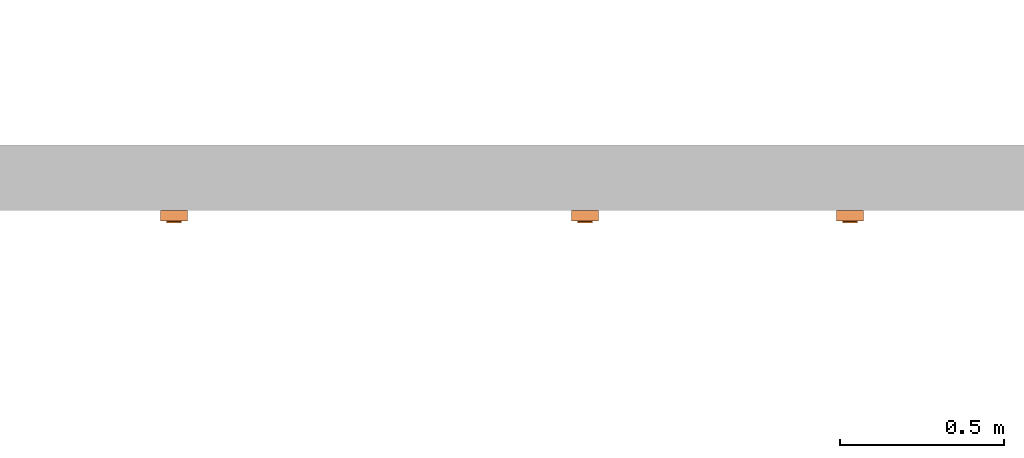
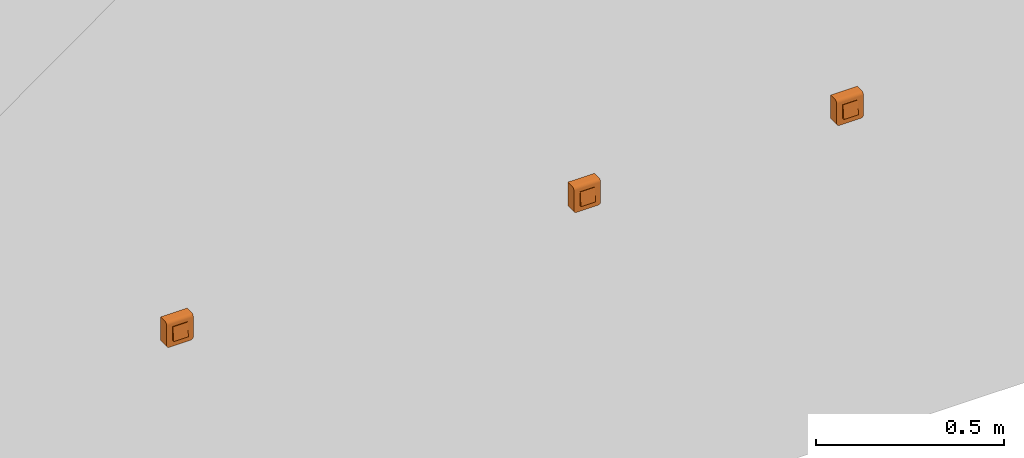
# One storey, part 127 of 197: 3 proxies.
"""IFC2X3 building model written with IfcOpenShell, lengths in metres."""

from ifc_helpers import new_model, entity, si_unit, converted_unit, direction, frame, origin, place, context, subcontext, project, spatial, faceted_brep, source, transform, mapped, material, material_list, type_object, type_shapes, element, save


model = new_model("IFC2X3")

# Units and contexts
model_context = context("Model", 3, precision=1e-05, world=origin(), true_north=direction((6.123031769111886e-17, 1.0)))
body_context = subcontext(model_context, "Body", "Model", "MODEL_VIEW")
ifc_project = project(units=[si_unit("LENGTHUNIT", "METRE"), converted_unit("PLANEANGLEUNIT", "DEGREE", entity("IfcPlaneAngleMeasure", 0.017453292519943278), si_unit("PLANEANGLEUNIT", "RADIAN"), dimensions=[0, 0, 0, 0, 0, 0, 0]), si_unit("AREAUNIT", "SQUARE_METRE")], contexts=[model_context])

# Site, building, storey
site_placement = place(None, origin())
site = spatial("IfcSite", under=ifc_project, at=site_placement, Name="Default", CompositionType="ELEMENT")
building_placement = place(site_placement, origin())
building = spatial("IfcBuilding", under=site, at=building_placement, CompositionType="ELEMENT")
storey_placement = place(building_placement, origin())
storey = spatial("IfcBuildingStorey", under=building, at=storey_placement, Name="Niveau 0", CompositionType="ELEMENT", Elevation=0.0)

# Proxies
ifc_material_1 = material(Name="BETCE-CADRE-BLANC")
ifc_material_2 = material(Name="BETCE-DOIGT-BLANC")
ifc_material_3 = material(Name="BETCE-ENJOLIVEUR-BLANC")
ifc_material_list = material_list([ifc_material_1, ifc_material_2, ifc_material_3])
building_element_proxy_type_1 = type_object("IfcBuildingElementProxyType", Name="Interrupteur simple saillie:Bouton poussoir", PredefinedType="NOTDEFINED", material=ifc_material_list)
shared_shape_1 = source(origin(), body_context, "Body", "Brep", [
    faceted_brep([(0.040999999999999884, -0.023, -0.03299999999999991), (0.040999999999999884, -0.023, 0.04092306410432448), (-0.04100000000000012, -0.023000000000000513, 0.04092306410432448), (-0.04100000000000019, -0.023000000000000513, -0.03299999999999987), (-0.040727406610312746, -0.023000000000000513, -0.03507055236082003), (-0.039928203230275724, -0.023000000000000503, -0.03699999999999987), (-0.038656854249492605, -0.0230000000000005, -0.038656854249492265), (-0.037000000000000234, -0.023000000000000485, -0.03992820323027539), (-0.0350705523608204, -0.023000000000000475, -0.04072740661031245), (-0.03300000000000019, -0.02300000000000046, -0.040999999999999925), (0.032999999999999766, -0.02300000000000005, -0.040999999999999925), (0.03507055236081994, -0.023000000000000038, -0.04072740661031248), (0.036999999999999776, -0.023000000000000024, -0.03992820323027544), (0.03865685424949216, -0.023000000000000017, -0.038656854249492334), (0.0399282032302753, -0.023000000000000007, -0.03699999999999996), (0.04072740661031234, -0.023000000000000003, -0.035070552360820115), (-0.041000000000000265, 0.0, -0.03299999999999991), (-0.041000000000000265, 0.0, 0.04092306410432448), (0.04099999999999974, 0.0, 0.04092306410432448), (0.040999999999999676, 0.0, -0.03299999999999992), (0.04072740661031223, 0.0, -0.03507055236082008), (0.03992820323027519, 0.0, -0.03699999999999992), (0.03865685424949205, 0.0, -0.0386568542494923), (0.036999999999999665, 0.0, -0.039928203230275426), (0.03507055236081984, 0.0, -0.04072740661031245), (0.032999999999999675, 0.0, -0.040999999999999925), (-0.033000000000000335, 0.0, -0.040999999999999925), (-0.03507055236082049, 0.0, -0.04072740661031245), (-0.03700000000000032, 0.0, -0.03992820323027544), (-0.0386568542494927, 0.0, -0.0386568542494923), (-0.03992820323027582, 0.0, -0.036999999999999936), (-0.04072740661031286, 0.0, -0.035070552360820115)], [[[0, 1, 2, 3, 4, 5, 6, 7, 8, 9, 10, 11, 12, 13, 14, 15]], [[16, 17, 18, 19, 20, 21, 22, 23, 24, 25, 26, 27, 28, 29, 30, 31]], [[3, 2, 17, 16]], [[10, 9, 26, 25]], [[1, 0, 19, 18]], [[2, 1, 18, 17]], [[26, 9, 8, 27]], [[27, 8, 7, 28]], [[28, 7, 6, 29]], [[30, 5, 4, 31]], [[31, 4, 3, 16]], [[29, 6, 5, 30]], [[20, 19, 0, 15]], [[21, 20, 15, 14]], [[22, 21, 14, 13]], [[23, 22, 13, 12]], [[24, 23, 12, 11]], [[25, 24, 11, 10]]]),
    faceted_brep([(-0.022500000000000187, -0.02299999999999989, -0.022500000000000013), (-0.022500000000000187, -0.02299999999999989, 0.022499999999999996), (0.022499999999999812, -0.02299999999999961, 0.022499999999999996), (0.022499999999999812, -0.02299999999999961, -0.022500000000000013), (-0.022500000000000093, -0.03799999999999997, -0.022500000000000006), (-0.02250000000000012, -0.03349999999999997, 0.022499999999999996), (0.022499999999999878, -0.033499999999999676, 0.022499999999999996), (0.022499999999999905, -0.0379999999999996, -0.022500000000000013)], [[[0, 1, 2, 3]], [[1, 0, 4, 5]], [[2, 1, 5, 6]], [[3, 2, 6, 7]], [[0, 3, 7, 4]], [[5, 4, 7, 6]]]),
    faceted_brep([(0.04099999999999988, -0.031999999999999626, -0.03300000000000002), (0.04099999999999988, -0.031999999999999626, 0.0319999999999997), (0.022499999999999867, -0.031999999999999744, -0.022500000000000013), (0.03299999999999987, -0.03199999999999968, -0.04099999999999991), (0.03507055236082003, -0.03199999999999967, -0.04072740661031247), (0.040727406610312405, -0.031999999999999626, -0.035070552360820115), (0.022499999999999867, -0.031999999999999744, 0.022499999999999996), (-0.02250000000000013, -0.03200000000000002, 0.022499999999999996), (-0.04100000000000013, -0.03200000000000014, 0.0319999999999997), (-0.02250000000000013, -0.03200000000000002, -0.022500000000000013), (-0.04100000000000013, -0.03200000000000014, -0.0329999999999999), (-0.03300000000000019, -0.03200000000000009, -0.04099999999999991), (-0.0350705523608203, -0.032000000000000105, -0.04072740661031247), (-0.04072740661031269, -0.03200000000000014, -0.03507055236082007), (-0.037000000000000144, -0.03200000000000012, -0.039928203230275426), (-0.03992820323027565, -0.03200000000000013, -0.03699999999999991), (-0.03865685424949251, -0.032000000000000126, -0.038656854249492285), (0.03699999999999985, -0.031999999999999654, -0.039928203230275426), (0.039928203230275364, -0.03199999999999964, -0.036999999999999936), (0.03865685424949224, -0.03199999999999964, -0.03865685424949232), (-0.04100000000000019, -0.02300000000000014, -0.03299999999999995), (-0.04100000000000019, -0.02300000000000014, 0.041000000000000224), (-0.02250000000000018, -0.02300000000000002, 0.022499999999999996), (-0.02250000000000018, -0.02300000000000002, -0.022500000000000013), (-0.03300000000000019, -0.02300000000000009, -0.04099999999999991), (-0.040727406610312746, -0.023000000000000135, -0.03507055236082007), (0.022499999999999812, -0.022999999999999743, 0.022499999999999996), (0.040999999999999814, -0.02299999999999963, 0.0410000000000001), (0.04099999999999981, -0.02299999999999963, -0.03299999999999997), (0.022499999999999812, -0.022999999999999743, -0.022500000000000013), (0.03299999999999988, -0.022999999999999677, -0.04099999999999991), (0.04072740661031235, -0.02299999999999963, -0.035070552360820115), (0.035070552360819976, -0.022999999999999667, -0.04072740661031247), (0.03992820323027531, -0.022999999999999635, -0.036999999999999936), (0.0369999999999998, -0.022999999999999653, -0.039928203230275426), (0.038656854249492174, -0.02299999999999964, -0.03865685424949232), (-0.035070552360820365, -0.0230000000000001, -0.04072740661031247), (-0.039928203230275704, -0.02300000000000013, -0.03699999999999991), (-0.037000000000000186, -0.023000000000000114, -0.039928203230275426), (-0.03865685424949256, -0.02300000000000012, -0.038656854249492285), (0.040999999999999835, -0.02532937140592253, 0.04069333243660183), (0.04099999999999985, -0.027499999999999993, 0.039794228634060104), (0.040999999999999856, -0.029363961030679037, 0.038363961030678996), (0.04099999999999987, -0.03079422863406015, 0.03649999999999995), (0.04099999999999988, -0.03169333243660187, 0.03432937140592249), (-0.04100000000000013, -0.03169333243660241, 0.034329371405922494), (-0.04100000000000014, -0.03079422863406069, 0.03649999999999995), (-0.04100000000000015, -0.02936396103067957, 0.03836396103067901), (-0.041000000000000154, -0.027500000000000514, 0.039794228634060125), (-0.041000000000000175, -0.02532937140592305, 0.04069333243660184)], [[[0, 1, 2]], [[3, 0, 2]], [[0, 3, 4]], [[5, 0, 4]], [[2, 1, 6]], [[1, 7, 6]], [[7, 1, 8]], [[9, 7, 8]], [[10, 9, 8]], [[11, 9, 10]], [[11, 10, 12]], [[12, 10, 13]], [[14, 12, 13]], [[15, 14, 13]], [[14, 15, 16]], [[9, 11, 3]], [[2, 9, 3]], [[5, 4, 17]], [[5, 17, 18]], [[19, 18, 17]], [[20, 21, 22]], [[23, 20, 22]], [[24, 20, 23]], [[25, 20, 24]], [[21, 26, 22]], [[26, 21, 27]], [[28, 26, 27]], [[29, 26, 28]], [[30, 29, 28]], [[30, 28, 31]], [[30, 31, 32]], [[31, 33, 32]], [[33, 34, 32]], [[34, 33, 35]], [[29, 30, 24]], [[25, 24, 36]], [[23, 29, 24]], [[37, 25, 36]], [[37, 36, 38]], [[39, 37, 38]], [[1, 0, 28, 27, 40, 41, 42, 43, 44]], [[31, 28, 0, 5]], [[33, 31, 5, 18]], [[35, 33, 18, 19]], [[34, 35, 19, 17]], [[32, 34, 17, 4]], [[30, 32, 4, 3]], [[24, 30, 3, 11]], [[36, 24, 11, 12]], [[38, 36, 12, 14]], [[39, 38, 14, 16]], [[37, 39, 16, 15]], [[25, 37, 15, 13]], [[20, 25, 13, 10]], [[21, 20, 10, 8, 45, 46, 47, 48, 49]], [[44, 43, 46, 45]], [[1, 44, 45, 8]], [[43, 42, 47, 46]], [[49, 48, 41, 40]], [[21, 49, 40, 27]], [[42, 41, 48, 47]], [[23, 22, 7, 9]], [[29, 23, 9, 2]], [[26, 29, 2, 6]], [[22, 26, 6, 7]]]),
])
type_shapes(building_element_proxy_type_1, [shared_shape_1])
proxy_1_placement = place(storey_placement, frame((-417.99844850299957, 116.01635778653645, 1.1)))
element("IfcBuildingElementProxy", 1, at=proxy_1_placement, inside=storey, type_object=building_element_proxy_type_1, material=ifc_material_list, Name="Interrupteur simple saillie:Bouton poussoir", ObjectType="Interrupteur simple saillie:Bouton poussoir", context=body_context, shape_type="MappedRepresentation", body=[
    mapped(shared_shape_1, transform((0.0, 0.0, 0.0), scale=1.0)),
])
building_element_proxy_type_2 = type_object("IfcBuildingElementProxyType", Name="Interrupteur simple saillie:Simple allumage", PredefinedType="NOTDEFINED", material=ifc_material_list)
shared_shape_2 = source(origin(), body_context, "Body", "Brep", [
    faceted_brep([(0.040999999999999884, -0.023, -0.03299999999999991), (0.040999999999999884, -0.023, 0.04092306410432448), (-0.04100000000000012, -0.023000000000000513, 0.04092306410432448), (-0.04100000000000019, -0.023000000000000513, -0.03299999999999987), (-0.040727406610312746, -0.023000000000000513, -0.03507055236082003), (-0.039928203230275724, -0.023000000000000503, -0.03699999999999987), (-0.038656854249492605, -0.0230000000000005, -0.038656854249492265), (-0.037000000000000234, -0.023000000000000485, -0.03992820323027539), (-0.0350705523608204, -0.023000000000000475, -0.04072740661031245), (-0.03300000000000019, -0.02300000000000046, -0.040999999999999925), (0.032999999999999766, -0.02300000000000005, -0.040999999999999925), (0.03507055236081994, -0.023000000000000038, -0.04072740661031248), (0.036999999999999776, -0.023000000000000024, -0.03992820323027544), (0.03865685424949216, -0.023000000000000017, -0.038656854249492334), (0.0399282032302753, -0.023000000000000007, -0.03699999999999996), (0.04072740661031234, -0.023000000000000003, -0.035070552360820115), (-0.041000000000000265, 0.0, -0.03299999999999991), (-0.041000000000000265, 0.0, 0.04092306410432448), (0.04099999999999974, 0.0, 0.04092306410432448), (0.040999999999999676, 0.0, -0.03299999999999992), (0.04072740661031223, 0.0, -0.03507055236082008), (0.03992820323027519, 0.0, -0.03699999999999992), (0.03865685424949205, 0.0, -0.0386568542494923), (0.036999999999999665, 0.0, -0.039928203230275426), (0.03507055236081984, 0.0, -0.04072740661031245), (0.032999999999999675, 0.0, -0.040999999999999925), (-0.033000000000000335, 0.0, -0.040999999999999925), (-0.03507055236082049, 0.0, -0.04072740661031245), (-0.03700000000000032, 0.0, -0.03992820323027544), (-0.0386568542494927, 0.0, -0.0386568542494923), (-0.03992820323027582, 0.0, -0.036999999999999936), (-0.04072740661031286, 0.0, -0.035070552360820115)], [[[0, 1, 2, 3, 4, 5, 6, 7, 8, 9, 10, 11, 12, 13, 14, 15]], [[16, 17, 18, 19, 20, 21, 22, 23, 24, 25, 26, 27, 28, 29, 30, 31]], [[3, 2, 17, 16]], [[10, 9, 26, 25]], [[1, 0, 19, 18]], [[2, 1, 18, 17]], [[26, 9, 8, 27]], [[27, 8, 7, 28]], [[28, 7, 6, 29]], [[30, 5, 4, 31]], [[31, 4, 3, 16]], [[29, 6, 5, 30]], [[20, 19, 0, 15]], [[21, 20, 15, 14]], [[22, 21, 14, 13]], [[23, 22, 13, 12]], [[24, 23, 12, 11]], [[25, 24, 11, 10]]]),
    faceted_brep([(-0.022500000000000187, -0.02299999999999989, -0.022500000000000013), (-0.022500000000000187, -0.02299999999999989, 0.022499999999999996), (0.022499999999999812, -0.02299999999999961, 0.022499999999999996), (0.022499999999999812, -0.02299999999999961, -0.022500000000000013), (-0.022500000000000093, -0.03799999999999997, -0.022500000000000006), (-0.02250000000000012, -0.03349999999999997, 0.022499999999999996), (0.022499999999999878, -0.033499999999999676, 0.022499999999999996), (0.022499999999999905, -0.0379999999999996, -0.022500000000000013)], [[[0, 1, 2, 3]], [[1, 0, 4, 5]], [[2, 1, 5, 6]], [[3, 2, 6, 7]], [[0, 3, 7, 4]], [[5, 4, 7, 6]]]),
    faceted_brep([(0.04099999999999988, -0.031999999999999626, -0.03300000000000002), (0.04099999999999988, -0.031999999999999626, 0.0319999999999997), (0.022499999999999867, -0.031999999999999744, -0.022500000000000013), (0.03299999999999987, -0.03199999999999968, -0.04099999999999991), (0.03507055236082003, -0.03199999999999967, -0.04072740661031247), (0.040727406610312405, -0.031999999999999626, -0.035070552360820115), (0.022499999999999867, -0.031999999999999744, 0.022499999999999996), (-0.02250000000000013, -0.03200000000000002, 0.022499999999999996), (-0.04100000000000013, -0.03200000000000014, 0.0319999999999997), (-0.02250000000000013, -0.03200000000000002, -0.022500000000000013), (-0.04100000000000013, -0.03200000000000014, -0.0329999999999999), (-0.03300000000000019, -0.03200000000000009, -0.04099999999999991), (-0.0350705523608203, -0.032000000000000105, -0.04072740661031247), (-0.04072740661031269, -0.03200000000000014, -0.03507055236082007), (-0.037000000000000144, -0.03200000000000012, -0.039928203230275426), (-0.03992820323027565, -0.03200000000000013, -0.03699999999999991), (-0.03865685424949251, -0.032000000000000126, -0.038656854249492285), (0.03699999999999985, -0.031999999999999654, -0.039928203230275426), (0.039928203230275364, -0.03199999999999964, -0.036999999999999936), (0.03865685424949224, -0.03199999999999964, -0.03865685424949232), (-0.04100000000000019, -0.02300000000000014, -0.03299999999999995), (-0.04100000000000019, -0.02300000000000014, 0.041000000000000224), (-0.02250000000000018, -0.02300000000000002, 0.022499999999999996), (-0.02250000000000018, -0.02300000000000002, -0.022500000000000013), (-0.03300000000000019, -0.02300000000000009, -0.04099999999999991), (-0.040727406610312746, -0.023000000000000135, -0.03507055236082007), (0.022499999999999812, -0.022999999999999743, 0.022499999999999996), (0.040999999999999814, -0.02299999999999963, 0.0410000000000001), (0.04099999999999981, -0.02299999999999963, -0.03299999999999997), (0.022499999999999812, -0.022999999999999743, -0.022500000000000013), (0.03299999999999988, -0.022999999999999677, -0.04099999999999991), (0.04072740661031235, -0.02299999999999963, -0.035070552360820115), (0.035070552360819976, -0.022999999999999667, -0.04072740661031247), (0.03992820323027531, -0.022999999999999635, -0.036999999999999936), (0.0369999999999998, -0.022999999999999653, -0.039928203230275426), (0.038656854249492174, -0.02299999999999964, -0.03865685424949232), (-0.035070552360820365, -0.0230000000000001, -0.04072740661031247), (-0.039928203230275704, -0.02300000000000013, -0.03699999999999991), (-0.037000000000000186, -0.023000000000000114, -0.039928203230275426), (-0.03865685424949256, -0.02300000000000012, -0.038656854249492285), (0.040999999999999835, -0.02532937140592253, 0.04069333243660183), (0.04099999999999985, -0.027499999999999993, 0.039794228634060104), (0.040999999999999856, -0.029363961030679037, 0.038363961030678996), (0.04099999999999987, -0.03079422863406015, 0.03649999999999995), (0.04099999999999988, -0.03169333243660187, 0.03432937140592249), (-0.04100000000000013, -0.03169333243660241, 0.034329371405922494), (-0.04100000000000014, -0.03079422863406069, 0.03649999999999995), (-0.04100000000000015, -0.02936396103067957, 0.03836396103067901), (-0.041000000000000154, -0.027500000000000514, 0.039794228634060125), (-0.041000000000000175, -0.02532937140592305, 0.04069333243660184)], [[[0, 1, 2]], [[3, 0, 2]], [[0, 3, 4]], [[5, 0, 4]], [[2, 1, 6]], [[1, 7, 6]], [[7, 1, 8]], [[9, 7, 8]], [[10, 9, 8]], [[11, 9, 10]], [[11, 10, 12]], [[12, 10, 13]], [[14, 12, 13]], [[15, 14, 13]], [[14, 15, 16]], [[9, 11, 3]], [[2, 9, 3]], [[5, 4, 17]], [[5, 17, 18]], [[19, 18, 17]], [[20, 21, 22]], [[23, 20, 22]], [[24, 20, 23]], [[25, 20, 24]], [[21, 26, 22]], [[26, 21, 27]], [[28, 26, 27]], [[29, 26, 28]], [[30, 29, 28]], [[30, 28, 31]], [[30, 31, 32]], [[31, 33, 32]], [[33, 34, 32]], [[34, 33, 35]], [[29, 30, 24]], [[25, 24, 36]], [[23, 29, 24]], [[37, 25, 36]], [[37, 36, 38]], [[39, 37, 38]], [[1, 0, 28, 27, 40, 41, 42, 43, 44]], [[31, 28, 0, 5]], [[33, 31, 5, 18]], [[35, 33, 18, 19]], [[34, 35, 19, 17]], [[32, 34, 17, 4]], [[30, 32, 4, 3]], [[24, 30, 3, 11]], [[36, 24, 11, 12]], [[38, 36, 12, 14]], [[39, 38, 14, 16]], [[37, 39, 16, 15]], [[25, 37, 15, 13]], [[20, 25, 13, 10]], [[21, 20, 10, 8, 45, 46, 47, 48, 49]], [[44, 43, 46, 45]], [[1, 44, 45, 8]], [[43, 42, 47, 46]], [[49, 48, 41, 40]], [[21, 49, 40, 27]], [[42, 41, 48, 47]], [[23, 22, 7, 9]], [[29, 23, 9, 2]], [[26, 29, 2, 6]], [[22, 26, 6, 7]]]),
])
type_shapes(building_element_proxy_type_2, [shared_shape_2])
proxy_2_placement = place(storey_placement, frame((-416.74944850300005, 116.01635778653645, 1.1)))
element("IfcBuildingElementProxy", 2, at=proxy_2_placement, inside=storey, type_object=building_element_proxy_type_2, material=ifc_material_list, Name="Interrupteur simple saillie:Simple allumage", ObjectType="Interrupteur simple saillie:Simple allumage", context=body_context, shape_type="MappedRepresentation", body=[
    mapped(shared_shape_2, transform((0.0, 0.0, 0.0), scale=1.0)),
])
building_element_proxy_type_3 = type_object("IfcBuildingElementProxyType", Name="Interrupteur simple saillie:Va et vient", PredefinedType="NOTDEFINED", material=ifc_material_list)
shared_shape_3 = source(origin(), body_context, "Body", "Brep", [
    faceted_brep([(0.040999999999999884, -0.023, -0.03299999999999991), (0.040999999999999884, -0.023, 0.04092306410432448), (-0.04100000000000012, -0.023000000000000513, 0.04092306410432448), (-0.04100000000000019, -0.023000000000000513, -0.03299999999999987), (-0.040727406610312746, -0.023000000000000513, -0.03507055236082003), (-0.039928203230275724, -0.023000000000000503, -0.03699999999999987), (-0.038656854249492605, -0.0230000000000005, -0.038656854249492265), (-0.037000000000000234, -0.023000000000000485, -0.03992820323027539), (-0.0350705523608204, -0.023000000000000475, -0.04072740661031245), (-0.03300000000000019, -0.02300000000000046, -0.040999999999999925), (0.032999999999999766, -0.02300000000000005, -0.040999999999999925), (0.03507055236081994, -0.023000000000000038, -0.04072740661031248), (0.036999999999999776, -0.023000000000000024, -0.03992820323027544), (0.03865685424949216, -0.023000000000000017, -0.038656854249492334), (0.0399282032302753, -0.023000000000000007, -0.03699999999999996), (0.04072740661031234, -0.023000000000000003, -0.035070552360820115), (-0.041000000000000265, 0.0, -0.03299999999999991), (-0.041000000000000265, 0.0, 0.04092306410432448), (0.04099999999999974, 0.0, 0.04092306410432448), (0.040999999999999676, 0.0, -0.03299999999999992), (0.04072740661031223, 0.0, -0.03507055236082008), (0.03992820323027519, 0.0, -0.03699999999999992), (0.03865685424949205, 0.0, -0.0386568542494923), (0.036999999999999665, 0.0, -0.039928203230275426), (0.03507055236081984, 0.0, -0.04072740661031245), (0.032999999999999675, 0.0, -0.040999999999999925), (-0.033000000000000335, 0.0, -0.040999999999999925), (-0.03507055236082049, 0.0, -0.04072740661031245), (-0.03700000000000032, 0.0, -0.03992820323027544), (-0.0386568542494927, 0.0, -0.0386568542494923), (-0.03992820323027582, 0.0, -0.036999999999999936), (-0.04072740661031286, 0.0, -0.035070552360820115)], [[[0, 1, 2, 3, 4, 5, 6, 7, 8, 9, 10, 11, 12, 13, 14, 15]], [[16, 17, 18, 19, 20, 21, 22, 23, 24, 25, 26, 27, 28, 29, 30, 31]], [[3, 2, 17, 16]], [[10, 9, 26, 25]], [[1, 0, 19, 18]], [[2, 1, 18, 17]], [[26, 9, 8, 27]], [[27, 8, 7, 28]], [[28, 7, 6, 29]], [[30, 5, 4, 31]], [[31, 4, 3, 16]], [[29, 6, 5, 30]], [[20, 19, 0, 15]], [[21, 20, 15, 14]], [[22, 21, 14, 13]], [[23, 22, 13, 12]], [[24, 23, 12, 11]], [[25, 24, 11, 10]]]),
    faceted_brep([(-0.022500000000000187, -0.02299999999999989, -0.022500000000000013), (-0.022500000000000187, -0.02299999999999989, 0.022499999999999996), (0.022499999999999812, -0.02299999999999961, 0.022499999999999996), (0.022499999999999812, -0.02299999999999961, -0.022500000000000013), (-0.022500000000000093, -0.03799999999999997, -0.022500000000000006), (-0.02250000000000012, -0.03349999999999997, 0.022499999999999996), (0.022499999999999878, -0.033499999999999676, 0.022499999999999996), (0.022499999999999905, -0.0379999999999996, -0.022500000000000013)], [[[0, 1, 2, 3]], [[1, 0, 4, 5]], [[2, 1, 5, 6]], [[3, 2, 6, 7]], [[0, 3, 7, 4]], [[5, 4, 7, 6]]]),
    faceted_brep([(0.04099999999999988, -0.031999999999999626, -0.03300000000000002), (0.04099999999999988, -0.031999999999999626, 0.0319999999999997), (0.022499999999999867, -0.031999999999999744, -0.022500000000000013), (0.03299999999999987, -0.03199999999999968, -0.04099999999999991), (0.03507055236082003, -0.03199999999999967, -0.04072740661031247), (0.040727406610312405, -0.031999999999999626, -0.035070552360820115), (0.022499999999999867, -0.031999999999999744, 0.022499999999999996), (-0.02250000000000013, -0.03200000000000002, 0.022499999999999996), (-0.04100000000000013, -0.03200000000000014, 0.0319999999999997), (-0.02250000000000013, -0.03200000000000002, -0.022500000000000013), (-0.04100000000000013, -0.03200000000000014, -0.0329999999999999), (-0.03300000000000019, -0.03200000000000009, -0.04099999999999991), (-0.0350705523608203, -0.032000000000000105, -0.04072740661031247), (-0.04072740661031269, -0.03200000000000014, -0.03507055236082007), (-0.037000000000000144, -0.03200000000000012, -0.039928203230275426), (-0.03992820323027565, -0.03200000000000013, -0.03699999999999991), (-0.03865685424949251, -0.032000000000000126, -0.038656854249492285), (0.03699999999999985, -0.031999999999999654, -0.039928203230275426), (0.039928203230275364, -0.03199999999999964, -0.036999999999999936), (0.03865685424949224, -0.03199999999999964, -0.03865685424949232), (-0.04100000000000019, -0.02300000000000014, -0.03299999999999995), (-0.04100000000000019, -0.02300000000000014, 0.041000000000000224), (-0.02250000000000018, -0.02300000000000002, 0.022499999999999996), (-0.02250000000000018, -0.02300000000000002, -0.022500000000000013), (-0.03300000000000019, -0.02300000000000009, -0.04099999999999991), (-0.040727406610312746, -0.023000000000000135, -0.03507055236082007), (0.022499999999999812, -0.022999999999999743, 0.022499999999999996), (0.040999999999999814, -0.02299999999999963, 0.0410000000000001), (0.04099999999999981, -0.02299999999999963, -0.03299999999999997), (0.022499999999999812, -0.022999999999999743, -0.022500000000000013), (0.03299999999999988, -0.022999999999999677, -0.04099999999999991), (0.04072740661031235, -0.02299999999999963, -0.035070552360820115), (0.035070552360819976, -0.022999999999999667, -0.04072740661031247), (0.03992820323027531, -0.022999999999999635, -0.036999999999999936), (0.0369999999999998, -0.022999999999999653, -0.039928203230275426), (0.038656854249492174, -0.02299999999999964, -0.03865685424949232), (-0.035070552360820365, -0.0230000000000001, -0.04072740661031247), (-0.039928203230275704, -0.02300000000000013, -0.03699999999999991), (-0.037000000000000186, -0.023000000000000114, -0.039928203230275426), (-0.03865685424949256, -0.02300000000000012, -0.038656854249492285), (0.040999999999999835, -0.02532937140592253, 0.04069333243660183), (0.04099999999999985, -0.027499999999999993, 0.039794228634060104), (0.040999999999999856, -0.029363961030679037, 0.038363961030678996), (0.04099999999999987, -0.03079422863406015, 0.03649999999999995), (0.04099999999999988, -0.03169333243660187, 0.03432937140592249), (-0.04100000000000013, -0.03169333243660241, 0.034329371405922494), (-0.04100000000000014, -0.03079422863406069, 0.03649999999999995), (-0.04100000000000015, -0.02936396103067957, 0.03836396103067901), (-0.041000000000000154, -0.027500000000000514, 0.039794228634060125), (-0.041000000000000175, -0.02532937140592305, 0.04069333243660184)], [[[0, 1, 2]], [[3, 0, 2]], [[0, 3, 4]], [[5, 0, 4]], [[2, 1, 6]], [[1, 7, 6]], [[7, 1, 8]], [[9, 7, 8]], [[10, 9, 8]], [[11, 9, 10]], [[11, 10, 12]], [[12, 10, 13]], [[14, 12, 13]], [[15, 14, 13]], [[14, 15, 16]], [[9, 11, 3]], [[2, 9, 3]], [[5, 4, 17]], [[5, 17, 18]], [[19, 18, 17]], [[20, 21, 22]], [[23, 20, 22]], [[24, 20, 23]], [[25, 20, 24]], [[21, 26, 22]], [[26, 21, 27]], [[28, 26, 27]], [[29, 26, 28]], [[30, 29, 28]], [[30, 28, 31]], [[30, 31, 32]], [[31, 33, 32]], [[33, 34, 32]], [[34, 33, 35]], [[29, 30, 24]], [[25, 24, 36]], [[23, 29, 24]], [[37, 25, 36]], [[37, 36, 38]], [[39, 37, 38]], [[1, 0, 28, 27, 40, 41, 42, 43, 44]], [[31, 28, 0, 5]], [[33, 31, 5, 18]], [[35, 33, 18, 19]], [[34, 35, 19, 17]], [[32, 34, 17, 4]], [[30, 32, 4, 3]], [[24, 30, 3, 11]], [[36, 24, 11, 12]], [[38, 36, 12, 14]], [[39, 38, 14, 16]], [[37, 39, 16, 15]], [[25, 37, 15, 13]], [[20, 25, 13, 10]], [[21, 20, 10, 8, 45, 46, 47, 48, 49]], [[44, 43, 46, 45]], [[1, 44, 45, 8]], [[43, 42, 47, 46]], [[49, 48, 41, 40]], [[21, 49, 40, 27]], [[42, 41, 48, 47]], [[23, 22, 7, 9]], [[29, 23, 9, 2]], [[26, 29, 2, 6]], [[22, 26, 6, 7]]]),
])
type_shapes(building_element_proxy_type_3, [shared_shape_3])
proxy_3_placement = place(storey_placement, frame((-415.9434485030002, 116.01635778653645, 1.1)))
element("IfcBuildingElementProxy", 3, at=proxy_3_placement, inside=storey, type_object=building_element_proxy_type_3, material=ifc_material_list, Name="Interrupteur simple saillie:Va et vient", ObjectType="Interrupteur simple saillie:Va et vient", context=body_context, shape_type="MappedRepresentation", body=[
    mapped(shared_shape_3, transform((0.0, 0.0, 0.0), scale=1.0)),
])

save(model, "model.ifc")
